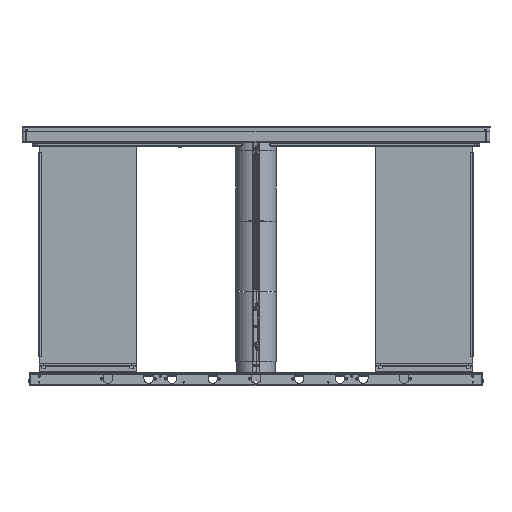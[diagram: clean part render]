
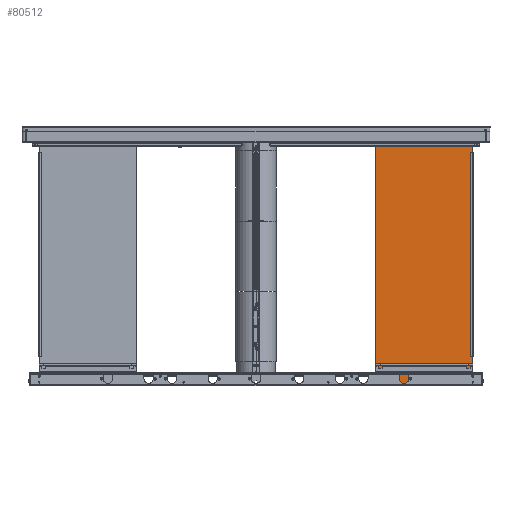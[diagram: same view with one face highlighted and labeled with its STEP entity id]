
A CAD part, top view. The second image highlights one B-rep face of the part: STEP entity #80512.
In plain terms, the highlighted planar face has unit normal (0, 0, 1) as drawn and (0, 0, -1) by its records, which use the part's own axes.
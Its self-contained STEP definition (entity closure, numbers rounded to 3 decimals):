
#2309 = AXIS2_PLACEMENT_3D ( 'NONE', #17850, #43258, #38098 ) ;
#3063 = CARTESIAN_POINT ( 'NONE',  ( -117.5, -427., -6. ) ) ;
#4661 = EDGE_CURVE ( 'NONE', #17474, #14438, #57060, .T. ) ;
#5084 = EDGE_CURVE ( 'NONE', #10383, #79837, #23016, .T. ) ;
#5635 = AXIS2_PLACEMENT_3D ( 'NONE', #45936, #66082, #59650 ) ;
#6632 = EDGE_LOOP ( 'NONE', ( #28886, #24402 ) ) ;
#7197 = CARTESIAN_POINT ( 'NONE',  ( 125., -427., -6. ) ) ;
#7584 = FACE_OUTER_BOUND ( 'NONE', #61013, .T. ) ;
#8004 = EDGE_CURVE ( 'NONE', #14438, #76839, #18140, .T. ) ;
#9847 = LINE ( 'NONE', #36098, #68690 ) ;
#10383 = VERTEX_POINT ( 'NONE', #65481 ) ;
#12530 = ORIENTED_EDGE ( 'NONE', *, *, #8004, .T. ) ;
#12960 = CARTESIAN_POINT ( 'NONE',  ( -185., -457., -6. ) ) ;
#14070 = CARTESIAN_POINT ( 'NONE',  ( -184., -457., -6. ) ) ;
#14426 = DIRECTION ( 'NONE',  ( 1., 0., 0. ) ) ;
#14438 = VERTEX_POINT ( 'NONE', #62983 ) ;
#14613 = AXIS2_PLACEMENT_3D ( 'NONE', #7197, #61309, #26557 ) ;
#16435 = CARTESIAN_POINT ( 'NONE',  ( 7.5, -427., -6. ) ) ;
#16628 = DIRECTION ( 'NONE',  ( 0., -1., 0. ) ) ;
#16998 = ORIENTED_EDGE ( 'NONE', *, *, #74214, .T. ) ;
#17474 = VERTEX_POINT ( 'NONE', #49176 ) ;
#17509 = VECTOR ( 'NONE', #16628, 1000. ) ;
#17850 = CARTESIAN_POINT ( 'NONE',  ( 0., -427., -6. ) ) ;
#18140 = LINE ( 'NONE', #12960, #41543 ) ;
#18455 = EDGE_CURVE ( 'NONE', #37222, #17474, #66913, .T. ) ;
#20354 = VERTEX_POINT ( 'NONE', #63995 ) ;
#21756 = DIRECTION ( 'NONE',  ( 0., 0., 1. ) ) ;
#22321 = ORIENTED_EDGE ( 'NONE', *, *, #18455, .T. ) ;
#23016 = CIRCLE ( 'NONE', #34047, 7.5 ) ;
#24402 = ORIENTED_EDGE ( 'NONE', *, *, #74524, .T. ) ;
#26557 = DIRECTION ( 'NONE',  ( 1., 0., 0. ) ) ;
#26849 = EDGE_CURVE ( 'NONE', #65477, #33236, #72277, .T. ) ;
#27230 = DIRECTION ( 'NONE',  ( 1., 0., 0. ) ) ;
#28668 = CARTESIAN_POINT ( 'NONE',  ( -125., -427., -6. ) ) ;
#28886 = ORIENTED_EDGE ( 'NONE', *, *, #84108, .T. ) ;
#31718 = EDGE_CURVE ( 'NONE', #79837, #10383, #72232, .T. ) ;
#33236 = VERTEX_POINT ( 'NONE', #63403 ) ;
#33410 = DIRECTION ( 'NONE',  ( 0., 0., 1. ) ) ;
#33822 = PLANE ( 'NONE',  #50376 ) ;
#34047 = AXIS2_PLACEMENT_3D ( 'NONE', #80446, #59875, #27230 ) ;
#34145 = EDGE_CURVE ( 'NONE', #33236, #65477, #39641, .T. ) ;
#34178 = ORIENTED_EDGE ( 'NONE', *, *, #34145, .T. ) ;
#35414 = CARTESIAN_POINT ( 'NONE',  ( 117.5, -427., -6. ) ) ;
#36098 = CARTESIAN_POINT ( 'NONE',  ( -184., -457.5, -6. ) ) ;
#37222 = VERTEX_POINT ( 'NONE', #54448 ) ;
#37352 = ORIENTED_EDGE ( 'NONE', *, *, #26849, .T. ) ;
#38098 = DIRECTION ( 'NONE',  ( 1., 0., 0. ) ) ;
#38999 = DIRECTION ( 'NONE',  ( 0., 0., 1. ) ) ;
#39641 = CIRCLE ( 'NONE', #79397, 7.5 ) ;
#40272 = FACE_BOUND ( 'NONE', #6632, .T. ) ;
#40676 = EDGE_LOOP ( 'NONE', ( #74186, #83085 ) ) ;
#41543 = VECTOR ( 'NONE', #44417, 1000. ) ;
#42719 = CIRCLE ( 'NONE', #5635, 7.5 ) ;
#43258 = DIRECTION ( 'NONE',  ( 0., 0., 1. ) ) ;
#44417 = DIRECTION ( 'NONE',  ( -1., 0., 0. ) ) ;
#45936 = CARTESIAN_POINT ( 'NONE',  ( -125., -427., -6. ) ) ;
#46318 = CARTESIAN_POINT ( 'NONE',  ( 0., -427., -6. ) ) ;
#47380 = CIRCLE ( 'NONE', #81624, 7.5 ) ;
#49176 = CARTESIAN_POINT ( 'NONE',  ( 184., 457., -6. ) ) ;
#49762 = CARTESIAN_POINT ( 'NONE',  ( 184., -457.5, -6. ) ) ;
#50376 = AXIS2_PLACEMENT_3D ( 'NONE', #73287, #38999, #14426 ) ;
#54311 = EDGE_LOOP ( 'NONE', ( #34178, #37352 ) ) ;
#54448 = CARTESIAN_POINT ( 'NONE',  ( -184., 457., -6. ) ) ;
#54914 = DIRECTION ( 'NONE',  ( 1., 0., 0. ) ) ;
#57060 = LINE ( 'NONE', #49762, #17509 ) ;
#58780 = DIRECTION ( 'NONE',  ( 1., 0., 0. ) ) ;
#59597 = FACE_BOUND ( 'NONE', #40676, .T. ) ;
#59650 = DIRECTION ( 'NONE',  ( 1., 0., 0. ) ) ;
#59875 = DIRECTION ( 'NONE',  ( 0., 0., 1. ) ) ;
#61013 = EDGE_LOOP ( 'NONE', ( #16998, #22321, #62847, #12530 ) ) ;
#61309 = DIRECTION ( 'NONE',  ( 0., 0., 1. ) ) ;
#62847 = ORIENTED_EDGE ( 'NONE', *, *, #4661, .T. ) ;
#62983 = CARTESIAN_POINT ( 'NONE',  ( 184., -457., -6. ) ) ;
#63403 = CARTESIAN_POINT ( 'NONE',  ( -7.5, -427., -6. ) ) ;
#63995 = CARTESIAN_POINT ( 'NONE',  ( -132.5, -427., -6. ) ) ;
#64011 = VECTOR ( 'NONE', #81060, 1000. ) ;
#65477 = VERTEX_POINT ( 'NONE', #16435 ) ;
#65481 = CARTESIAN_POINT ( 'NONE',  ( 132.5, -427., -6. ) ) ;
#66082 = DIRECTION ( 'NONE',  ( 0., 0., 1. ) ) ;
#66913 = LINE ( 'NONE', #68172, #64011 ) ;
#68172 = CARTESIAN_POINT ( 'NONE',  ( -185., 457., -6. ) ) ;
#68690 = VECTOR ( 'NONE', #80304, 1000. ) ;
#72232 = CIRCLE ( 'NONE', #14613, 7.5 ) ;
#72277 = CIRCLE ( 'NONE', #2309, 7.5 ) ;
#72470 = FACE_BOUND ( 'NONE', #54311, .T. ) ;
#72628 = VERTEX_POINT ( 'NONE', #3063 ) ;
#73287 = CARTESIAN_POINT ( 'NONE',  ( -185., -457.5, -6. ) ) ;
#74186 = ORIENTED_EDGE ( 'NONE', *, *, #31718, .T. ) ;
#74214 = EDGE_CURVE ( 'NONE', #76839, #37222, #9847, .T. ) ;
#74524 = EDGE_CURVE ( 'NONE', #72628, #20354, #42719, .T. ) ;
#76839 = VERTEX_POINT ( 'NONE', #14070 ) ;
#79397 = AXIS2_PLACEMENT_3D ( 'NONE', #46318, #33410, #58780 ) ;
#79837 = VERTEX_POINT ( 'NONE', #35414 ) ;
#80304 = DIRECTION ( 'NONE',  ( 0., 1., 0. ) ) ;
#80446 = CARTESIAN_POINT ( 'NONE',  ( 125., -427., -6. ) ) ;
#80512 = ADVANCED_FACE ( 'NONE', ( #59597, #72470, #40272, #7584 ), #33822, .F. ) ;
#81060 = DIRECTION ( 'NONE',  ( 1., 0., 0. ) ) ;
#81624 = AXIS2_PLACEMENT_3D ( 'NONE', #28668, #21756, #54914 ) ;
#83085 = ORIENTED_EDGE ( 'NONE', *, *, #5084, .T. ) ;
#84108 = EDGE_CURVE ( 'NONE', #20354, #72628, #47380, .T. ) ;
